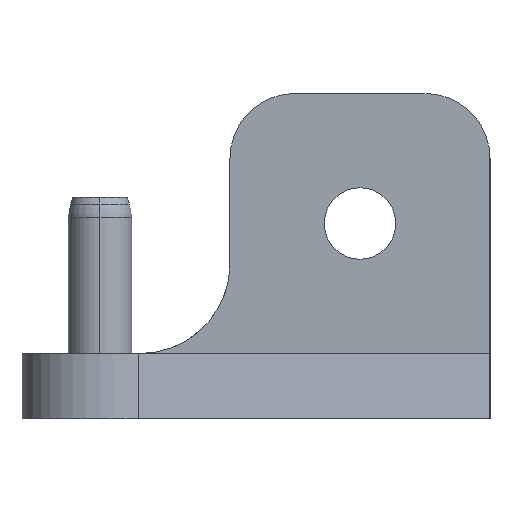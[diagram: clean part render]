
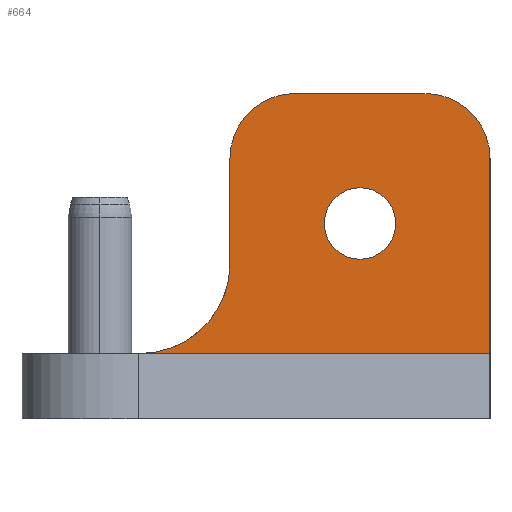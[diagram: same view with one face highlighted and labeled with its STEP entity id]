
A CAD part, left-side view. The second image highlights one B-rep face of the part: STEP entity #664.
In plain terms, the highlighted planar face has unit normal (-1, 0, 0).
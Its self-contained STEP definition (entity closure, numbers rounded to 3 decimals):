
#5 = VERTEX_POINT ( 'NONE', #22 ) ;
#8 = VERTEX_POINT ( 'NONE', #44 ) ;
#14 = VERTEX_POINT ( 'NONE', #53 ) ;
#21 = VERTEX_POINT ( 'NONE', #66 ) ;
#22 = CARTESIAN_POINT ( 'NONE',  ( -7., 6.9, 0. ) ) ;
#28 = VERTEX_POINT ( 'NONE', #62 ) ;
#33 = CARTESIAN_POINT ( 'NONE',  ( -7., -20., 20. ) ) ;
#37 = CARTESIAN_POINT ( 'NONE',  ( -7., -10., 10. ) ) ;
#38 = VERTEX_POINT ( 'NONE', #71 ) ;
#40 = DIRECTION ( 'NONE',  ( 0., -1., 0. ) ) ;
#43 = CARTESIAN_POINT ( 'NONE',  ( -7., 0., 6.9 ) ) ;
#44 = CARTESIAN_POINT ( 'NONE',  ( -7., -20., 15. ) ) ;
#45 = VERTEX_POINT ( 'NONE', #43 ) ;
#47 = DIRECTION ( 'NONE',  ( 0., 0., -1. ) ) ;
#53 = CARTESIAN_POINT ( 'NONE',  ( -7., -12.75, 10. ) ) ;
#61 = DIRECTION ( 'NONE',  ( -1., 0., 0. ) ) ;
#62 = CARTESIAN_POINT ( 'NONE',  ( -7., -7.25, 10. ) ) ;
#66 = CARTESIAN_POINT ( 'NONE',  ( -7., -20., 0. ) ) ;
#67 = VERTEX_POINT ( 'NONE', #83 ) ;
#71 = CARTESIAN_POINT ( 'NONE',  ( -7., -15., 20. ) ) ;
#72 = VERTEX_POINT ( 'NONE', #73 ) ;
#73 = CARTESIAN_POINT ( 'NONE',  ( -7., 0., 15. ) ) ;
#83 = CARTESIAN_POINT ( 'NONE',  ( -7., -5., 20. ) ) ;
#95 = DIRECTION ( 'NONE',  ( -1., 0., 0. ) ) ;
#103 = DIRECTION ( 'NONE',  ( -1., 0., 0. ) ) ;
#105 = CARTESIAN_POINT ( 'NONE',  ( -7., -5., 15. ) ) ;
#108 = DIRECTION ( 'NONE',  ( 0., -1., 0. ) ) ;
#109 = CARTESIAN_POINT ( 'NONE',  ( -7., -15., 15. ) ) ;
#112 = CARTESIAN_POINT ( 'NONE',  ( -7., 0., 20. ) ) ;
#116 = DIRECTION ( 'NONE',  ( 1., 0., 0. ) ) ;
#117 = DIRECTION ( 'NONE',  ( 0., 1., 0. ) ) ;
#118 = CARTESIAN_POINT ( 'NONE',  ( -7., 6.9, 6.9 ) ) ;
#119 = DIRECTION ( 'NONE',  ( 0., 1., 0. ) ) ;
#120 = DIRECTION ( 'NONE',  ( 0., 0., -1. ) ) ;
#122 = CARTESIAN_POINT ( 'NONE',  ( -7., -35.37, 20. ) ) ;
#124 = DIRECTION ( 'NONE',  ( 0., 1., 0. ) ) ;
#134 = CARTESIAN_POINT ( 'NONE',  ( -7., -35.37, 0. ) ) ;
#155 = DIRECTION ( 'NONE',  ( 0., -1., 0. ) ) ;
#193 = DIRECTION ( 'NONE',  ( -1., 0., 0. ) ) ;
#194 = CARTESIAN_POINT ( 'NONE',  ( -7., -10., 10. ) ) ;
#211 = DIRECTION ( 'NONE',  ( 0., -1., 0. ) ) ;
#229 = DIRECTION ( 'NONE',  ( 0., 1., 0. ) ) ;
#240 = PLANE ( 'NONE',  #349 ) ;
#242 = CARTESIAN_POINT ( 'NONE',  ( -7., -35.37, 20. ) ) ;
#270 = DIRECTION ( 'NONE',  ( 1., 0., 0. ) ) ;
#306 = EDGE_CURVE ( 'NONE', #8, #21, #565, .T. ) ;
#308 = EDGE_CURVE ( 'NONE', #14, #28, #537, .T. ) ;
#309 = AXIS2_PLACEMENT_3D ( 'NONE', #105, #103, #124 ) ;
#310 = AXIS2_PLACEMENT_3D ( 'NONE', #194, #193, #211 ) ;
#318 = EDGE_CURVE ( 'NONE', #8, #38, #555, .T. ) ;
#320 = EDGE_CURVE ( 'NONE', #45, #5, #521, .T. ) ;
#323 = EDGE_CURVE ( 'NONE', #72, #45, #550, .T. ) ;
#342 = EDGE_CURVE ( 'NONE', #67, #38, #562, .T. ) ;
#343 = AXIS2_PLACEMENT_3D ( 'NONE', #37, #61, #40 ) ;
#347 = AXIS2_PLACEMENT_3D ( 'NONE', #109, #95, #119 ) ;
#349 = AXIS2_PLACEMENT_3D ( 'NONE', #242, #270, #229 ) ;
#350 = EDGE_CURVE ( 'NONE', #67, #72, #608, .T. ) ;
#355 = AXIS2_PLACEMENT_3D ( 'NONE', #118, #116, #117 ) ;
#391 = EDGE_CURVE ( 'NONE', #5, #21, #613, .T. ) ;
#399 = EDGE_CURVE ( 'NONE', #28, #14, #572, .T. ) ;
#415 = EDGE_LOOP ( 'NONE', ( #545, #513, #466, #546, #518, #496, #482 ) ) ;
#455 = EDGE_LOOP ( 'NONE', ( #560, #510 ) ) ;
#466 = ORIENTED_EDGE ( 'NONE', *, *, #342, .F. ) ;
#482 = ORIENTED_EDGE ( 'NONE', *, *, #391, .T. ) ;
#496 = ORIENTED_EDGE ( 'NONE', *, *, #320, .T. ) ;
#510 = ORIENTED_EDGE ( 'NONE', *, *, #399, .F. ) ;
#513 = ORIENTED_EDGE ( 'NONE', *, *, #318, .T. ) ;
#518 = ORIENTED_EDGE ( 'NONE', *, *, #323, .T. ) ;
#521 = CIRCLE ( 'NONE', #355, 6.9 ) ;
#530 = VECTOR ( 'NONE', #108, 1000. ) ;
#533 = VECTOR ( 'NONE', #120, 1000. ) ;
#534 = VECTOR ( 'NONE', #47, 1000. ) ;
#537 = CIRCLE ( 'NONE', #343, 2.75 ) ;
#545 = ORIENTED_EDGE ( 'NONE', *, *, #306, .F. ) ;
#546 = ORIENTED_EDGE ( 'NONE', *, *, #350, .T. ) ;
#550 = LINE ( 'NONE', #112, #533 ) ;
#555 = CIRCLE ( 'NONE', #347, 5. ) ;
#560 = ORIENTED_EDGE ( 'NONE', *, *, #308, .F. ) ;
#562 = LINE ( 'NONE', #122, #530 ) ;
#565 = LINE ( 'NONE', #33, #534 ) ;
#572 = CIRCLE ( 'NONE', #310, 2.75 ) ;
#586 = VECTOR ( 'NONE', #155, 1000. ) ;
#608 = CIRCLE ( 'NONE', #309, 5. ) ;
#613 = LINE ( 'NONE', #134, #586 ) ;
#619 = FACE_OUTER_BOUND ( 'NONE', #415, .T. ) ;
#640 = FACE_BOUND ( 'NONE', #455, .T. ) ;
#664 = ADVANCED_FACE ( 'NONE', ( #640, #619 ), #240, .F. ) ;
